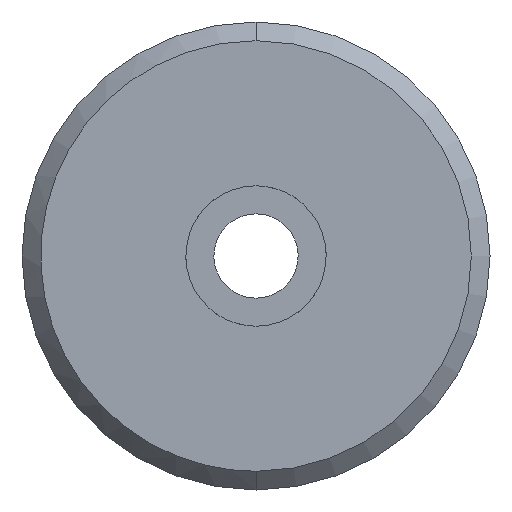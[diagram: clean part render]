
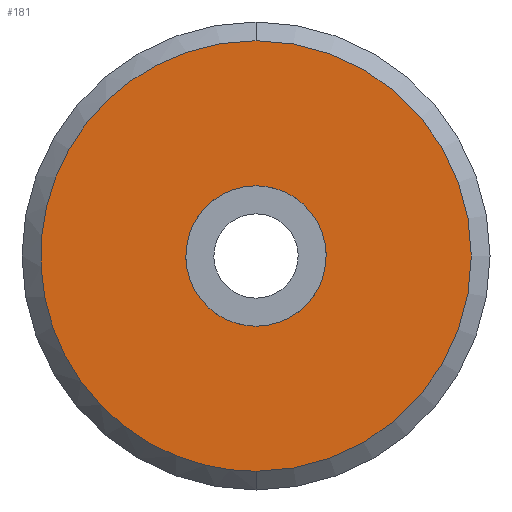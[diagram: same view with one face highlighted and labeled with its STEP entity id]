
A CAD part, front view. The second image highlights one B-rep face of the part: STEP entity #181.
In plain terms, the highlighted planar face has unit normal (0, -1, 0).
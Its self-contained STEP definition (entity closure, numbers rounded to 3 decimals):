
#57=CARTESIAN_POINT('Axis2P3D Location',(0.,0.,0.)) ;
#61=CARTESIAN_POINT('Vertex',(0.,0.,-23.)) ;
#63=CARTESIAN_POINT('Vertex',(0.,0.,23.)) ;
#92=CARTESIAN_POINT('Axis2P3D Location',(0.,0.,0.)) ;
#98=CARTESIAN_POINT('Control Point',(0.,0.,23.)) ;
#99=CARTESIAN_POINT('Control Point',(-2.115,0.,23.)) ;
#100=CARTESIAN_POINT('Control Point',(-4.229,0.,22.757)) ;
#101=CARTESIAN_POINT('Control Point',(-6.306,0.,22.271)) ;
#102=CARTESIAN_POINT('Control Point',(-10.312,0.,20.83)) ;
#103=CARTESIAN_POINT('Control Point',(-13.886,0.,18.518)) ;
#104=CARTESIAN_POINT('Control Point',(-15.532,0.,17.161)) ;
#105=CARTESIAN_POINT('Control Point',(-18.483,0.,14.093)) ;
#106=CARTESIAN_POINT('Control Point',(-20.661,0.,10.435)) ;
#107=CARTESIAN_POINT('Control Point',(-21.534,0.,8.489)) ;
#108=CARTESIAN_POINT('Control Point',(-22.817,0.,4.43)) ;
#109=CARTESIAN_POINT('Control Point',(-23.146,0.,0.186)) ;
#110=CARTESIAN_POINT('Control Point',(-23.065,0.,-1.946)) ;
#111=CARTESIAN_POINT('Control Point',(-22.414,0.,-6.153)) ;
#112=CARTESIAN_POINT('Control Point',(-20.826,0.,-10.102)) ;
#113=CARTESIAN_POINT('Control Point',(-19.807,0.,-11.977)) ;
#114=CARTESIAN_POINT('Control Point',(-17.357,0.,-15.458)) ;
#115=CARTESIAN_POINT('Control Point',(-14.182,0.,-18.293)) ;
#116=CARTESIAN_POINT('Control Point',(-12.437,0.,-19.521)) ;
#117=CARTESIAN_POINT('Control Point',(-9.007,0.,-21.386)) ;
#118=CARTESIAN_POINT('Control Point',(-5.271,0.,-22.493)) ;
#119=CARTESIAN_POINT('Control Point',(-3.528,0.,-22.831)) ;
#120=CARTESIAN_POINT('Control Point',(-1.764,0.,-23.)) ;
#121=CARTESIAN_POINT('Control Point',(0.,0.,-23.)) ;
#128=CARTESIAN_POINT('Control Point',(0.,0.,-7.5)) ;
#129=CARTESIAN_POINT('Control Point',(0.805,0.,-7.5)) ;
#130=CARTESIAN_POINT('Control Point',(1.61,0.,-7.392)) ;
#131=CARTESIAN_POINT('Control Point',(2.396,0.,-7.176)) ;
#132=CARTESIAN_POINT('Control Point',(3.89,0.,-6.538)) ;
#133=CARTESIAN_POINT('Control Point',(5.163,0.,-5.53)) ;
#134=CARTESIAN_POINT('Control Point',(5.728,0.,-4.942)) ;
#135=CARTESIAN_POINT('Control Point',(6.686,0.,-3.631)) ;
#136=CARTESIAN_POINT('Control Point',(7.264,0.,-2.113)) ;
#137=CARTESIAN_POINT('Control Point',(7.449,0.,-1.319)) ;
#138=CARTESIAN_POINT('Control Point',(7.602,0.,0.298)) ;
#139=CARTESIAN_POINT('Control Point',(7.323,0.,1.898)) ;
#140=CARTESIAN_POINT('Control Point',(7.077,0.,2.675)) ;
#141=CARTESIAN_POINT('Control Point',(6.381,0.,4.143)) ;
#142=CARTESIAN_POINT('Control Point',(5.323,0.,5.375)) ;
#143=CARTESIAN_POINT('Control Point',(4.714,0.,5.917)) ;
#144=CARTESIAN_POINT('Control Point',(3.464,0.,6.757)) ;
#145=CARTESIAN_POINT('Control Point',(2.05,0.,7.264)) ;
#146=CARTESIAN_POINT('Control Point',(1.375,0.,7.421)) ;
#147=CARTESIAN_POINT('Control Point',(0.687,0.,7.5)) ;
#148=CARTESIAN_POINT('Control Point',(0.,0.,7.5)) ;
#149=CARTESIAN_POINT('Vertex',(0.,0.,-7.5)) ;
#151=CARTESIAN_POINT('Vertex',(0.,0.,7.5)) ;
#155=CARTESIAN_POINT('Control Point',(0.,0.,7.5)) ;
#156=CARTESIAN_POINT('Control Point',(-0.805,0.,7.5)) ;
#157=CARTESIAN_POINT('Control Point',(-1.61,0.,7.392)) ;
#158=CARTESIAN_POINT('Control Point',(-2.396,0.,7.176)) ;
#159=CARTESIAN_POINT('Control Point',(-3.89,0.,6.538)) ;
#160=CARTESIAN_POINT('Control Point',(-5.163,0.,5.53)) ;
#161=CARTESIAN_POINT('Control Point',(-5.728,0.,4.942)) ;
#162=CARTESIAN_POINT('Control Point',(-6.686,0.,3.631)) ;
#163=CARTESIAN_POINT('Control Point',(-7.264,0.,2.113)) ;
#164=CARTESIAN_POINT('Control Point',(-7.449,0.,1.319)) ;
#165=CARTESIAN_POINT('Control Point',(-7.602,0.,-0.298)) ;
#166=CARTESIAN_POINT('Control Point',(-7.323,0.,-1.898)) ;
#167=CARTESIAN_POINT('Control Point',(-7.077,0.,-2.675)) ;
#168=CARTESIAN_POINT('Control Point',(-6.381,0.,-4.143)) ;
#169=CARTESIAN_POINT('Control Point',(-5.323,0.,-5.375)) ;
#170=CARTESIAN_POINT('Control Point',(-4.714,0.,-5.917)) ;
#171=CARTESIAN_POINT('Control Point',(-3.464,0.,-6.757)) ;
#172=CARTESIAN_POINT('Control Point',(-2.05,0.,-7.264)) ;
#173=CARTESIAN_POINT('Control Point',(-1.375,0.,-7.421)) ;
#174=CARTESIAN_POINT('Control Point',(-0.687,0.,-7.5)) ;
#175=CARTESIAN_POINT('Control Point',(0.,0.,-7.5)) ;
#58=DIRECTION('Axis2P3D Direction',(-0.,1.,0.)) ;
#93=DIRECTION('Axis2P3D Direction',(0.,1.,0.)) ;
#94=DIRECTION('Axis2P3D XDirection',(0.,-0.,1.)) ;
#59=AXIS2_PLACEMENT_3D('Circle Axis2P3D',#57,#58,$) ;
#95=AXIS2_PLACEMENT_3D('Plane Axis2P3D',#92,#93,#94) ;
#124=ORIENTED_EDGE('',*,*,#122,.T.) ;
#125=ORIENTED_EDGE('',*,*,#65,.T.) ;
#178=ORIENTED_EDGE('',*,*,#153,.F.) ;
#179=ORIENTED_EDGE('',*,*,#176,.F.) ;
#180=FACE_BOUND('',#177,.T.) ;
#181=ADVANCED_FACE('Importato1',(#126,#180),#96,.F.) ;
#97=B_SPLINE_CURVE_WITH_KNOTS('',5,(#98,#99,#100,#101,#102,#103,#104,#105,#106,#107,#108,#109,#110,#111,#112,#113,#114,#115,#116,#117,#118,#119,#120,#121),.UNSPECIFIED.,.F.,.U.,(6,3,3,3,3,3,3,6),(0.,14.952,29.904,44.855,59.807,74.759,89.711,102.186),.UNSPECIFIED.) ;
#127=B_SPLINE_CURVE_WITH_KNOTS('',5,(#128,#129,#130,#131,#132,#133,#134,#135,#136,#137,#138,#139,#140,#141,#142,#143,#144,#145,#146,#147,#148),.UNSPECIFIED.,.F.,.U.,(6,3,3,3,3,3,6),(0.,5.692,11.384,17.076,22.768,28.46,33.321),.UNSPECIFIED.) ;
#154=B_SPLINE_CURVE_WITH_KNOTS('',5,(#155,#156,#157,#158,#159,#160,#161,#162,#163,#164,#165,#166,#167,#168,#169,#170,#171,#172,#173,#174,#175),.UNSPECIFIED.,.F.,.U.,(6,3,3,3,3,3,6),(0.,5.692,11.384,17.076,22.768,28.46,33.321),.UNSPECIFIED.) ;
#60=CIRCLE('generated circle',#59,23.) ;
#65=EDGE_CURVE('',#62,#64,#60,.F.) ;
#122=EDGE_CURVE('',#64,#62,#97,.T.) ;
#153=EDGE_CURVE('',#150,#152,#127,.T.) ;
#176=EDGE_CURVE('',#152,#150,#154,.T.) ;
#123=EDGE_LOOP('',(#124,#125)) ;
#177=EDGE_LOOP('',(#178,#179)) ;
#126=FACE_OUTER_BOUND('',#123,.T.) ;
#96=PLANE('Plane',#95) ;
#62=VERTEX_POINT('',#61) ;
#64=VERTEX_POINT('',#63) ;
#150=VERTEX_POINT('',#149) ;
#152=VERTEX_POINT('',#151) ;
